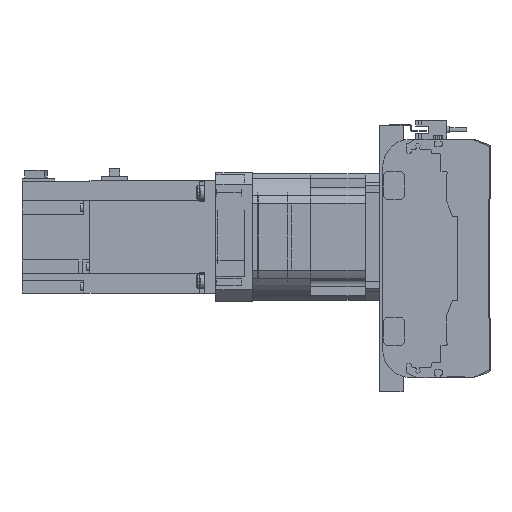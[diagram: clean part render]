
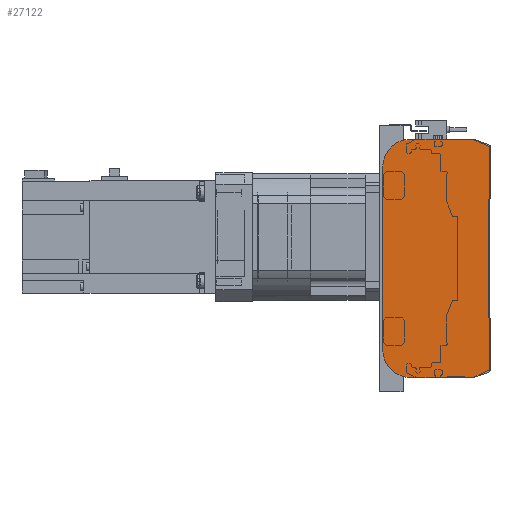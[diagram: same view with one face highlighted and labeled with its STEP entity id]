
A CAD part, left-side view. The second image highlights one B-rep face of the part: STEP entity #27122.
In plain terms, the highlighted planar face has unit normal (-1, 0, 0).
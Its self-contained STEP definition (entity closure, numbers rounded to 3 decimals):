
#2142=CIRCLE('',#29665,2.);
#2143=CIRCLE('',#29668,2.);
#2144=CIRCLE('',#29671,20.);
#2145=CIRCLE('',#29674,20.);
#7767=ORIENTED_EDGE('',*,*,#13069,.F.);
#7768=ORIENTED_EDGE('',*,*,#13147,.F.);
#7769=ORIENTED_EDGE('',*,*,#13145,.F.);
#7770=ORIENTED_EDGE('',*,*,#13143,.F.);
#7771=ORIENTED_EDGE('',*,*,#12821,.F.);
#7772=ORIENTED_EDGE('',*,*,#13142,.F.);
#7773=ORIENTED_EDGE('',*,*,#13140,.F.);
#7774=ORIENTED_EDGE('',*,*,#13138,.F.);
#7775=ORIENTED_EDGE('',*,*,#13136,.F.);
#7776=ORIENTED_EDGE('',*,*,#13134,.F.);
#12821=EDGE_CURVE('',#15809,#15810,#18093,.T.);
#13069=EDGE_CURVE('',#15881,#15882,#18207,.T.);
#13134=EDGE_CURVE('',#15882,#15923,#18252,.T.);
#13136=EDGE_CURVE('',#15923,#15924,#2142,.T.);
#13138=EDGE_CURVE('',#15924,#15925,#18255,.T.);
#13140=EDGE_CURVE('',#15925,#15926,#2143,.T.);
#13142=EDGE_CURVE('',#15926,#15809,#18258,.T.);
#13143=EDGE_CURVE('',#15810,#15927,#2144,.T.);
#13145=EDGE_CURVE('',#15927,#15928,#18260,.T.);
#13147=EDGE_CURVE('',#15928,#15881,#2145,.T.);
#15809=VERTEX_POINT('',#45973);
#15810=VERTEX_POINT('',#45975);
#15881=VERTEX_POINT('',#46346);
#15882=VERTEX_POINT('',#46348);
#15923=VERTEX_POINT('',#46478);
#15924=VERTEX_POINT('',#46482);
#15925=VERTEX_POINT('',#46486);
#15926=VERTEX_POINT('',#46490);
#15927=VERTEX_POINT('',#46496);
#15928=VERTEX_POINT('',#46500);
#18093=LINE('',#45974,#20300);
#18207=LINE('',#46347,#20414);
#18252=LINE('',#46477,#20459);
#18255=LINE('',#46485,#20462);
#18258=LINE('',#46493,#20465);
#18260=LINE('',#46499,#20467);
#20300=VECTOR('',#35893,1000.);
#20414=VECTOR('',#36381,1000.);
#20459=VECTOR('',#36514,1000.);
#20462=VECTOR('',#36523,1000.);
#20465=VECTOR('',#36532,1000.);
#20467=VECTOR('',#36540,1000.);
#22224=EDGE_LOOP('',(#7767,#7768,#7769,#7770,#7771,#7772,#7773,#7774,#7775,
#7776));
#24463=FACE_BOUND('',#22224,.T.);
#25798=PLANE('',#29676);
#27122=ADVANCED_FACE('',(#24463),#25798,.F.);
#29665=AXIS2_PLACEMENT_3D('',#46481,#36518,#36519);
#29668=AXIS2_PLACEMENT_3D('',#46489,#36527,#36528);
#29671=AXIS2_PLACEMENT_3D('',#46495,#36535,#36536);
#29674=AXIS2_PLACEMENT_3D('',#46503,#36544,#36545);
#29676=AXIS2_PLACEMENT_3D('',#46505,#36548,#36549);
#35893=DIRECTION('',(0.,1.,0.));
#36381=DIRECTION('',(0.,-1.,0.));
#36514=DIRECTION('',(0.,-0.913,-0.408));
#36518=DIRECTION('',(1.,0.,0.));
#36519=DIRECTION('',(0.,0.,-1.));
#36523=DIRECTION('',(0.,0.,-1.));
#36527=DIRECTION('',(1.,0.,0.));
#36528=DIRECTION('',(0.,0.,-1.));
#36532=DIRECTION('',(0.,0.913,-0.408));
#36535=DIRECTION('',(1.,0.,0.));
#36536=DIRECTION('',(0.,0.,-1.));
#36540=DIRECTION('',(0.,0.,1.));
#36544=DIRECTION('',(1.,0.,0.));
#36545=DIRECTION('',(0.,0.,-1.));
#36548=DIRECTION('',(1.,0.,0.));
#36549=DIRECTION('',(0.,0.,-1.));
#45973=CARTESIAN_POINT('',(0.,12.33,-85.));
#45974=CARTESIAN_POINT('',(0.,12.33,-85.));
#45975=CARTESIAN_POINT('',(0.,56.5,-85.));
#46346=CARTESIAN_POINT('',(0.,56.5,85.));
#46347=CARTESIAN_POINT('',(0.,56.5,85.));
#46348=CARTESIAN_POINT('',(0.,12.33,85.));
#46477=CARTESIAN_POINT('',(0.,12.33,85.));
#46478=CARTESIAN_POINT('',(0.,1.684,80.239));
#46481=CARTESIAN_POINT('',(0.,2.5,78.413));
#46482=CARTESIAN_POINT('',(0.,0.5,78.413));
#46485=CARTESIAN_POINT('',(0.,0.5,78.413));
#46486=CARTESIAN_POINT('',(0.,0.5,-78.413));
#46489=CARTESIAN_POINT('',(0.,2.5,-78.413));
#46490=CARTESIAN_POINT('',(0.,1.684,-80.239));
#46493=CARTESIAN_POINT('',(0.,1.684,-80.239));
#46495=CARTESIAN_POINT('',(0.,56.5,-65.));
#46496=CARTESIAN_POINT('',(0.,76.5,-65.));
#46499=CARTESIAN_POINT('',(0.,76.5,-65.));
#46500=CARTESIAN_POINT('',(0.,76.5,65.));
#46503=CARTESIAN_POINT('',(0.,56.5,65.));
#46505=CARTESIAN_POINT('',(0.,2.5,78.413));
